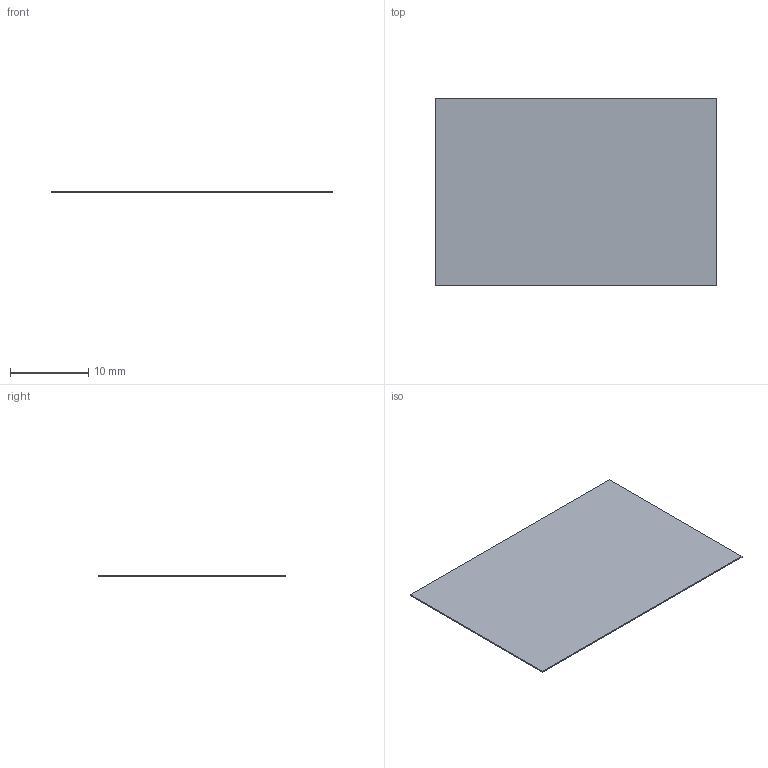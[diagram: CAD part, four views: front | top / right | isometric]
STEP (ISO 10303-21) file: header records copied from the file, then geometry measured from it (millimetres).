
FILE_DESCRIPTION(('Open CASCADE Model'),'2;1');
FILE_NAME('Open CASCADE Shape Model','2026-11-05T01:47:42',('Author'),( 'Open CASCADE'),'Open CASCADE STEP processor 7.8','Open CASCADE 7.8' ,'Unknown');
FILE_SCHEMA(('AUTOMOTIVE_DESIGN { 1 0 10303 214 1 1 1 1 }'));
Length unit declared in the file: millimetre
Products named in the file (1): Open CASCADE STEP translator 7.8 15
Bounding box: 36 x 24 x 0.15 mm (x, y, z)
Volume: 129.6 mm3; surface area: 1746 mm2
Topology: 1 solids, 1 shells, 6 faces, 12 edges, 8 vertices
Faces by surface type: plane 6
Entity records: 322 total; most frequent: CARTESIAN_POINT 51, DIRECTION 50, LINE 36, VECTOR 36, ORIENTED_EDGE 24, PCURVE 24, DEFINITIONAL_REPRESENTATION 24, EDGE_CURVE 12
